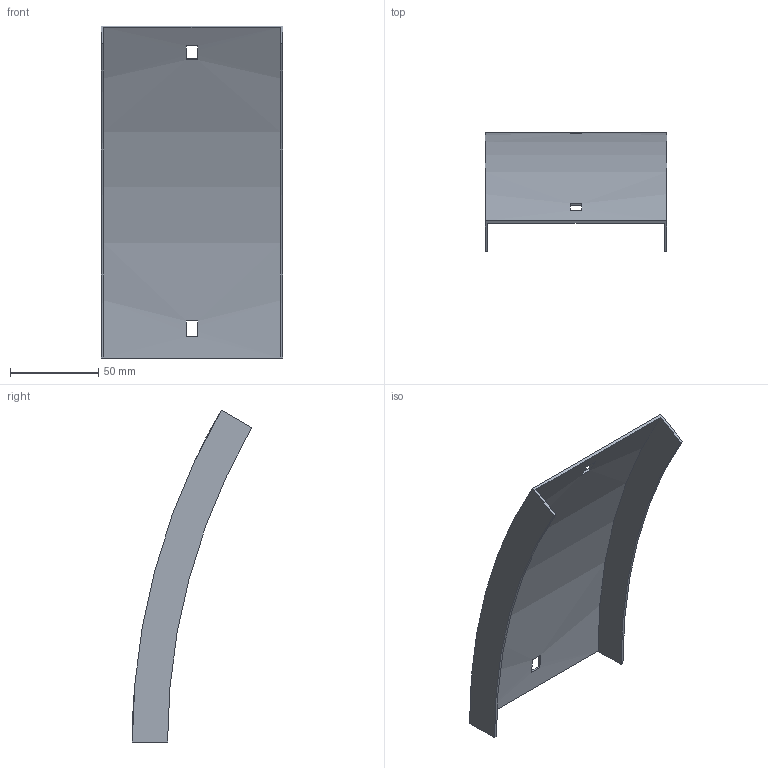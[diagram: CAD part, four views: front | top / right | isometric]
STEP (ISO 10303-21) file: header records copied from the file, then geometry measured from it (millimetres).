
FILE_DESCRIPTION (( 'STEP AP214' ), '1' );
FILE_NAME ('B2_35N3C100.step', '2025-02-21T10:31:42', ( '' ), ( '' ), 'SwSTEP 2.0', 'SolidWorks 2023', '' );
FILE_SCHEMA (( 'AUTOMOTIVE_DESIGN' ));
Length unit declared in the file: millimetre
Products named in the file (1): B2_35N3C100
Bounding box: 103 x 67.76 x 188.25 mm (x, y, z)
Volume: 40849.6 mm3; surface area: 55540.4 mm2
Topology: 1 solids, 1 shells, 18 faces, 48 edges, 32 vertices
Faces by surface type: plane 14, cylinder 4
Entity records: 599 total; most frequent: DIRECTION 102, CARTESIAN_POINT 99, ORIENTED_EDGE 96, EDGE_CURVE 48, AXIS2_PLACEMENT_3D 35, VERTEX_POINT 32, VECTOR 32, LINE 32
